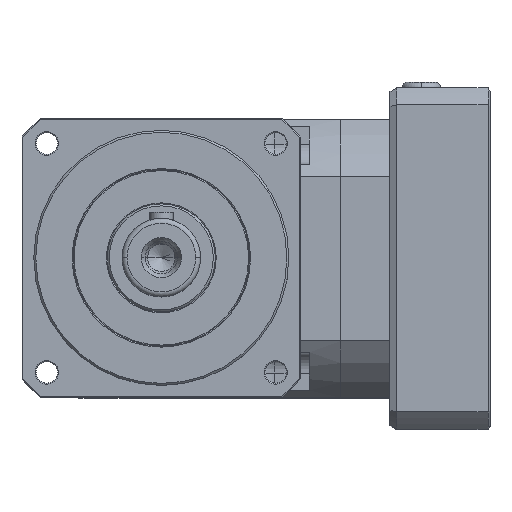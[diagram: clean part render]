
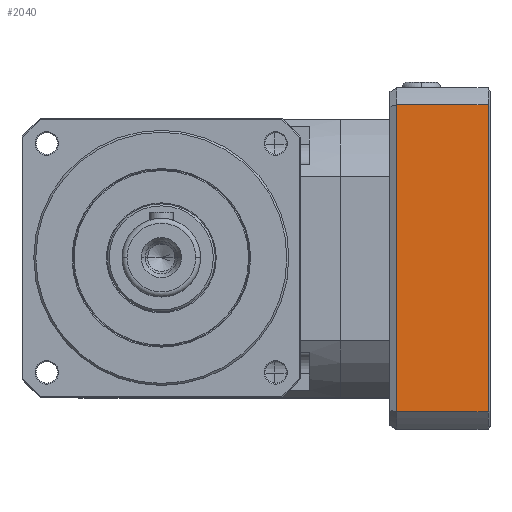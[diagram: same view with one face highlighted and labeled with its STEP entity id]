
A CAD part, top view. The second image highlights one B-rep face of the part: STEP entity #2040.
In plain terms, the highlighted planar face has unit normal (0, 0, 1).
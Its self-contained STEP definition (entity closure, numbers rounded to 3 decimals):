
#7 = CARTESIAN_POINT ( 'NONE',  ( 119.964, -78.23, 158. ) ) ;
#266 = VERTEX_POINT ( 'NONE', #3708 ) ;
#573 = LINE ( 'NONE', #3988, #7253 ) ;
#868 = PLANE ( 'NONE',  #10421 ) ;
#989 = EDGE_CURVE ( 'NONE', #10615, #2153, #573, .T. ) ;
#1518 = LINE ( 'NONE', #7, #9984 ) ;
#2040 = ADVANCED_FACE ( 'NONE', ( #10793 ), #868, .F. ) ;
#2153 = VERTEX_POINT ( 'NONE', #6650 ) ;
#2659 = VECTOR ( 'NONE', #7720, 1000. ) ;
#3108 = ORIENTED_EDGE ( 'NONE', *, *, #5956, .T. ) ;
#3341 = EDGE_CURVE ( 'NONE', #266, #2153, #3358, .T. ) ;
#3358 = LINE ( 'NONE', #9583, #5950 ) ;
#3708 = CARTESIAN_POINT ( 'NONE',  ( 166.5, -78.23, 158. ) ) ;
#3988 = CARTESIAN_POINT ( 'NONE',  ( 116.5, 78.23, 158. ) ) ;
#4092 = VERTEX_POINT ( 'NONE', #10648 ) ;
#4165 = CARTESIAN_POINT ( 'NONE',  ( 116.5, -78.23, 158. ) ) ;
#4795 = EDGE_CURVE ( 'NONE', #266, #4092, #5801, .T. ) ;
#5177 = ORIENTED_EDGE ( 'NONE', *, *, #3341, .T. ) ;
#5491 = DIRECTION ( 'NONE',  ( 0., 0., -1. ) ) ;
#5801 = LINE ( 'NONE', #4165, #2659 ) ;
#5950 = VECTOR ( 'NONE', #9751, 1000. ) ;
#5956 = EDGE_CURVE ( 'NONE', #10615, #4092, #1518, .T. ) ;
#5990 = ORIENTED_EDGE ( 'NONE', *, *, #4795, .F. ) ;
#6650 = CARTESIAN_POINT ( 'NONE',  ( 166.5, 78.23, 158. ) ) ;
#7253 = VECTOR ( 'NONE', #9446, 1000. ) ;
#7720 = DIRECTION ( 'NONE',  ( -1., 0., 0. ) ) ;
#7986 = DIRECTION ( 'NONE',  ( 0., 1., 0. ) ) ;
#8106 = CARTESIAN_POINT ( 'NONE',  ( 167.5, 87., 158. ) ) ;
#8454 = CARTESIAN_POINT ( 'NONE',  ( 119.964, 78.23, 158. ) ) ;
#8531 = ORIENTED_EDGE ( 'NONE', *, *, #989, .F. ) ;
#8627 = EDGE_LOOP ( 'NONE', ( #5990, #5177, #8531, #3108 ) ) ;
#8997 = DIRECTION ( 'NONE',  ( 0., -1., 0. ) ) ;
#9446 = DIRECTION ( 'NONE',  ( 1., 0., 0. ) ) ;
#9583 = CARTESIAN_POINT ( 'NONE',  ( 166.5, 87., 158. ) ) ;
#9751 = DIRECTION ( 'NONE',  ( 0., 1., 0. ) ) ;
#9984 = VECTOR ( 'NONE', #8997, 1000. ) ;
#10421 = AXIS2_PLACEMENT_3D ( 'NONE', #8106, #5491, #7986 ) ;
#10615 = VERTEX_POINT ( 'NONE', #8454 ) ;
#10648 = CARTESIAN_POINT ( 'NONE',  ( 119.964, -78.23, 158. ) ) ;
#10793 = FACE_OUTER_BOUND ( 'NONE', #8627, .T. ) ;
